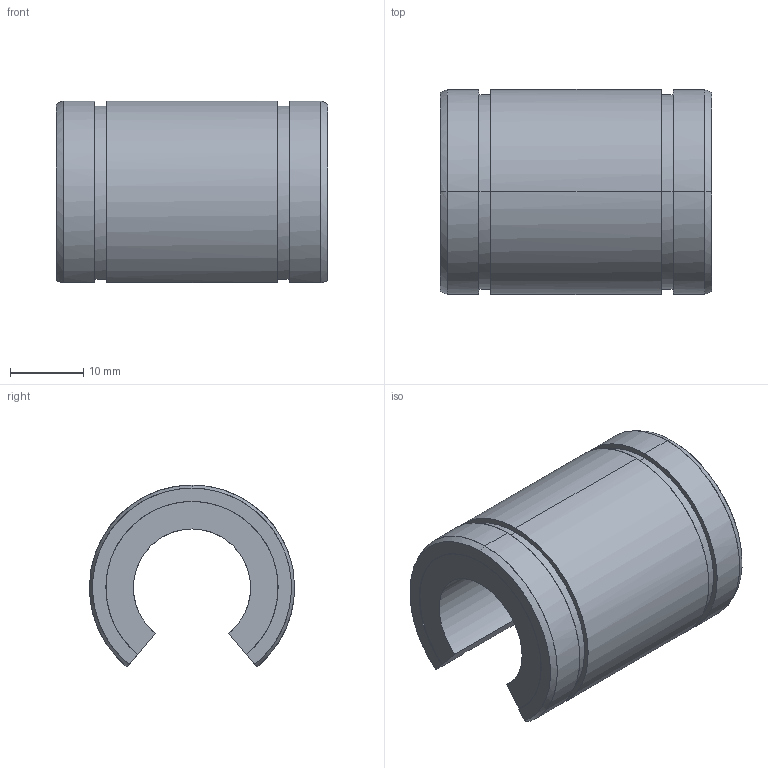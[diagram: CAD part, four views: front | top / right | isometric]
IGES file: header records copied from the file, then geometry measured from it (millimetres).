
Global section: file name: No Iges File Name specified; native system: AutoDesk Inventor R10; preprocessor: AutoDesk Inventor Iges Exporter R10; author: No Author specified; organization: No Organization specified; date: 20101208.112958; units: millimetre
Bounding box: 37 x 28 x 24.84 mm (x, y, z)
Surface area: 5226.3 mm2 (no closed solid volume)
Topology: 0 solids, 0 shells, 30 faces, 248 edges, 248 vertices
Faces by surface type: bspline 30
